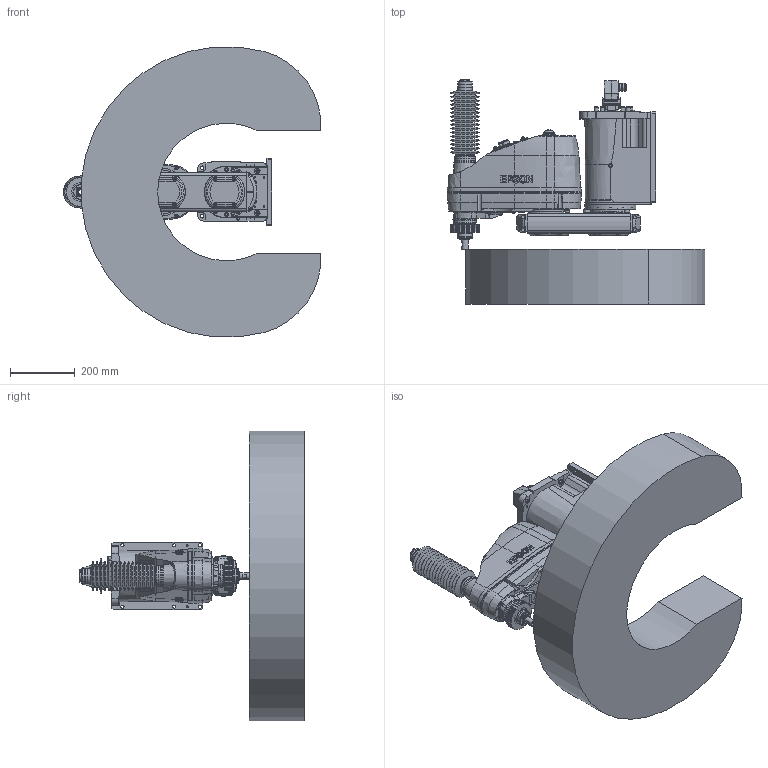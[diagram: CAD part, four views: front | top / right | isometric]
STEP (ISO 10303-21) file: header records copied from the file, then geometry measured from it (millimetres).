
FILE_DESCRIPTION( ( 'STEP AP214' ), '1' );
FILE_NAME( 'C:/Users/9607552/Desktop/GX8-B452CW_langle.stp', '2023-07-07T02:11:46', ( '' ), ( '' ), ' ', 'PARTsolutions', ' ' );
FILE_SCHEMA( ( 'AUTOMOTIVE_DESIGN { 1 0 10303 214 1 1 1 1 }' ) );
Length unit declared in the file: millimetre
Products named in the file (11): GX8-B452CWA-W; _B452CW_BASE; _B452CR; _B452CR_1; _B452CR_2; _B452C_J2; _B452CZA; _1-B-long; _1-B-short; _Angle-B; _GX8-12-B_WS
Assembly tree (12 placements, depth 2):
  GX8-B452CWA-W
    _B452CW_BASE
    _B452CR
    _B452CR_1  x2
    _B452CR_2  x2
    _B452C_J2
    _B452CZA
    _1-B-long
    _1-B-short
    _Angle-B
    _GX8-12-B_WS
Bounding box: 796.98 x 695.5 x 896.58 mm (x, y, z)
Volume: 86417715.3 mm3; surface area: 2800241.1 mm2
Topology: 12 solids, 16 shells, 3333 faces, 8062 edges, 5223 vertices
Faces by surface type: plane 1641, cylinder 1091, cone 400, torus 159, bspline 37, sphere 5
Full cylindrical faces by diameter (mm): 1 x48, 1.18 x55, 2.261 x4, 2.459 x12, 3 x32, 3.242 x18, 3.3 x4, 3.9 x4, 4.2 x8, 4.5 x12, 4.8 x5, 5.34 x4, 5.5 x17, 6 x6, 6.2 x4, 6.647 x4, 6.8 x2, 7 x42, 8 x5, 8.5 x4, 9 x24, 10 x24, 11 x4, 11.2 x5, 11.5 x1, 12 x5, 12.2 x1, 12.25 x1, 13 x7, 13.2 x12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
Entity records: 118463 total; most frequent: CARTESIAN_POINT 21891, DIRECTION 14825, ORIENTED_EDGE 13340, EDGE_CURVE 6670, AXIS2_PLACEMENT_3D 5749, VERTEX_POINT 4837, EDGE_LOOP 4519, FACE_OUTER_BOUND 3751
